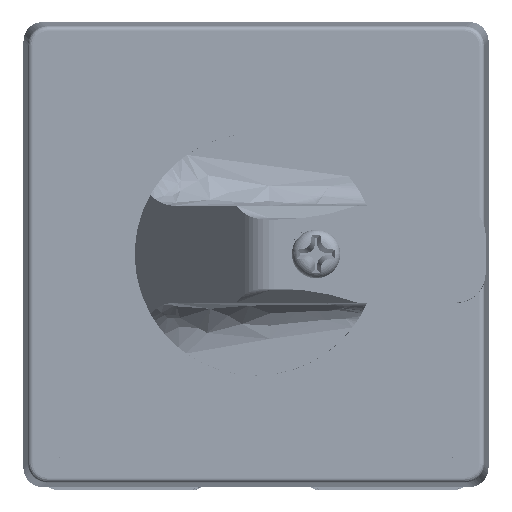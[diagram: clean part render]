
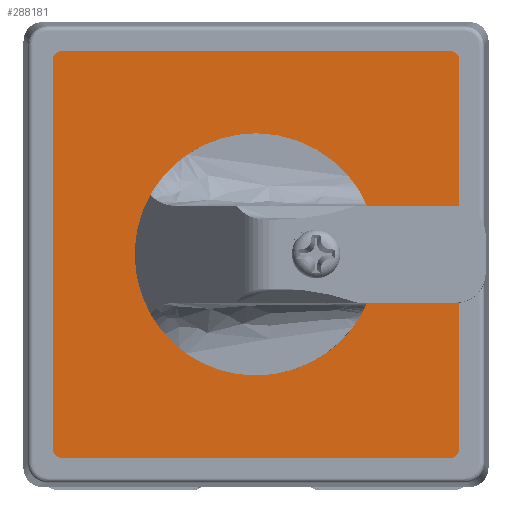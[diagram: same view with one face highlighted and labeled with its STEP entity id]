
A CAD part, top view. The second image highlights one B-rep face of the part: STEP entity #288181.
In plain terms, the highlighted planar face has unit normal (0, 0, 1).
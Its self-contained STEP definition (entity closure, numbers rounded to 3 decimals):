
#13964 = VECTOR ( 'NONE', #387608, 1000. ) ;
#19461 = CARTESIAN_POINT ( 'NONE',  ( 27.361, 14.889, 21.018 ) ) ;
#30120 = VERTEX_POINT ( 'NONE', #77340 ) ;
#37666 = LINE ( 'NONE', #113279, #401773 ) ;
#38415 = DIRECTION ( 'NONE',  ( -1., 0., 0. ) ) ;
#38937 = PLANE ( 'NONE',  #271400 ) ;
#39677 = EDGE_CURVE ( 'NONE', #172224, #101175, #427731, .T. ) ;
#39789 = ORIENTED_EDGE ( 'NONE', *, *, #316991, .T. ) ;
#43035 = EDGE_CURVE ( 'NONE', #315631, #140671, #69457, .T. ) ;
#46417 = DIRECTION ( 'NONE',  ( 0., 0., 1. ) ) ;
#46831 = VERTEX_POINT ( 'NONE', #295164 ) ;
#48933 = CARTESIAN_POINT ( 'NONE',  ( 27.361, 14.889, 21.018 ) ) ;
#52159 = CARTESIAN_POINT ( 'NONE',  ( 26.361, 14.889, 21.018 ) ) ;
#52924 = DIRECTION ( 'NONE',  ( 0., 0., 1. ) ) ;
#62217 = EDGE_CURVE ( 'NONE', #423658, #401848, #116459, .T. ) ;
#69457 = CIRCLE ( 'NONE', #125824, 10.35 ) ;
#77340 = CARTESIAN_POINT ( 'NONE',  ( -14.639, 14.889, 21.018 ) ) ;
#82413 = CARTESIAN_POINT ( 'NONE',  ( 6.361, -5.111, 21.018 ) ) ;
#86670 = DIRECTION ( 'NONE',  ( 0., 0., 1. ) ) ;
#87852 = EDGE_LOOP ( 'NONE', ( #334400, #289129 ) ) ;
#91238 = DIRECTION ( 'NONE',  ( 0., 0., 1. ) ) ;
#94543 = CARTESIAN_POINT ( 'NONE',  ( 6.361, -5.111, 21.018 ) ) ;
#95522 = ORIENTED_EDGE ( 'NONE', *, *, #62217, .T. ) ;
#101175 = VERTEX_POINT ( 'NONE', #279599 ) ;
#101467 = AXIS2_PLACEMENT_3D ( 'NONE', #140305, #102937, #38415 ) ;
#102937 = DIRECTION ( 'NONE',  ( 0., 0., 1. ) ) ;
#109635 = CARTESIAN_POINT ( 'NONE',  ( -13.639, 15.889, 21.018 ) ) ;
#113279 = CARTESIAN_POINT ( 'NONE',  ( -14.639, 14.889, 21.018 ) ) ;
#113869 = CARTESIAN_POINT ( 'NONE',  ( -13.639, -26.111, 21.018 ) ) ;
#116459 = CIRCLE ( 'NONE', #172398, 1. ) ;
#122305 = LINE ( 'NONE', #109635, #347260 ) ;
#124822 = CARTESIAN_POINT ( 'NONE',  ( -13.639, 14.889, 21.018 ) ) ;
#125824 = AXIS2_PLACEMENT_3D ( 'NONE', #94543, #329755, #160584 ) ;
#133747 = AXIS2_PLACEMENT_3D ( 'NONE', #82413, #46417, #321962 ) ;
#134387 = EDGE_CURVE ( 'NONE', #101175, #423658, #376936, .T. ) ;
#136131 = CARTESIAN_POINT ( 'NONE',  ( 16.711, -5.111, 21.018 ) ) ;
#140305 = CARTESIAN_POINT ( 'NONE',  ( -13.639, -25.111, 21.018 ) ) ;
#140671 = VERTEX_POINT ( 'NONE', #274974 ) ;
#141605 = EDGE_LOOP ( 'NONE', ( #95522, #283224, #419074, #305800, #361340, #39789, #148531, #365438 ) ) ;
#148531 = ORIENTED_EDGE ( 'NONE', *, *, #39677, .T. ) ;
#160584 = DIRECTION ( 'NONE',  ( 1., 0., 0. ) ) ;
#172224 = VERTEX_POINT ( 'NONE', #248282 ) ;
#172398 = AXIS2_PLACEMENT_3D ( 'NONE', #52159, #86670, #326197 ) ;
#174015 = DIRECTION ( 'NONE',  ( -1., 0., 0. ) ) ;
#190960 = CARTESIAN_POINT ( 'NONE',  ( 26.361, 15.889, 21.018 ) ) ;
#201402 = LINE ( 'NONE', #113869, #13964 ) ;
#215544 = EDGE_CURVE ( 'NONE', #428571, #30120, #371609, .T. ) ;
#239043 = CIRCLE ( 'NONE', #101467, 1. ) ;
#243521 = FACE_OUTER_BOUND ( 'NONE', #141605, .T. ) ;
#244030 = CIRCLE ( 'NONE', #133747, 10.35 ) ;
#248282 = CARTESIAN_POINT ( 'NONE',  ( 26.361, -26.111, 21.018 ) ) ;
#251852 = CARTESIAN_POINT ( 'NONE',  ( 26.361, -25.111, 21.018 ) ) ;
#259012 = EDGE_CURVE ( 'NONE', #401848, #428571, #122305, .T. ) ;
#271400 = AXIS2_PLACEMENT_3D ( 'NONE', #397880, #91238, #297803 ) ;
#274974 = CARTESIAN_POINT ( 'NONE',  ( -3.989, -5.111, 21.018 ) ) ;
#279599 = CARTESIAN_POINT ( 'NONE',  ( 27.361, -25.111, 21.018 ) ) ;
#283224 = ORIENTED_EDGE ( 'NONE', *, *, #259012, .T. ) ;
#284159 = EDGE_CURVE ( 'NONE', #30120, #385379, #37666, .T. ) ;
#285989 = VECTOR ( 'NONE', #389185, 1000. ) ;
#288104 = EDGE_CURVE ( 'NONE', #140671, #315631, #244030, .T. ) ;
#288181 = ADVANCED_FACE ( 'NONE', ( #243521, #291613 ), #38937, .T. ) ;
#289129 = ORIENTED_EDGE ( 'NONE', *, *, #43035, .F. ) ;
#290980 = DIRECTION ( 'NONE',  ( -1., 0., 0. ) ) ;
#291613 = FACE_BOUND ( 'NONE', #87852, .T. ) ;
#293330 = EDGE_CURVE ( 'NONE', #385379, #46831, #239043, .T. ) ;
#295164 = CARTESIAN_POINT ( 'NONE',  ( -13.639, -26.111, 21.018 ) ) ;
#297803 = DIRECTION ( 'NONE',  ( 1., 0., 0. ) ) ;
#305800 = ORIENTED_EDGE ( 'NONE', *, *, #284159, .T. ) ;
#312207 = CARTESIAN_POINT ( 'NONE',  ( -14.639, -25.111, 21.018 ) ) ;
#315631 = VERTEX_POINT ( 'NONE', #136131 ) ;
#316991 = EDGE_CURVE ( 'NONE', #46831, #172224, #201402, .T. ) ;
#320636 = DIRECTION ( 'NONE',  ( 0., 0., 1. ) ) ;
#321962 = DIRECTION ( 'NONE',  ( 1., 0., 0. ) ) ;
#326197 = DIRECTION ( 'NONE',  ( 1., 0., 0. ) ) ;
#329755 = DIRECTION ( 'NONE',  ( 0., 0., 1. ) ) ;
#334400 = ORIENTED_EDGE ( 'NONE', *, *, #288104, .F. ) ;
#347260 = VECTOR ( 'NONE', #174015, 1000. ) ;
#348324 = DIRECTION ( 'NONE',  ( 0., -1., 0. ) ) ;
#354389 = AXIS2_PLACEMENT_3D ( 'NONE', #124822, #52924, #290980 ) ;
#354979 = DIRECTION ( 'NONE',  ( -1., 0., 0. ) ) ;
#361340 = ORIENTED_EDGE ( 'NONE', *, *, #293330, .T. ) ;
#363042 = AXIS2_PLACEMENT_3D ( 'NONE', #251852, #320636, #354979 ) ;
#365438 = ORIENTED_EDGE ( 'NONE', *, *, #134387, .T. ) ;
#371609 = CIRCLE ( 'NONE', #354389, 1. ) ;
#376936 = LINE ( 'NONE', #19461, #285989 ) ;
#385379 = VERTEX_POINT ( 'NONE', #312207 ) ;
#387608 = DIRECTION ( 'NONE',  ( 1., 0., 0. ) ) ;
#389185 = DIRECTION ( 'NONE',  ( 0., 1., 0. ) ) ;
#397880 = CARTESIAN_POINT ( 'NONE',  ( 26.361, 14.889, 21.018 ) ) ;
#401773 = VECTOR ( 'NONE', #348324, 1000. ) ;
#401848 = VERTEX_POINT ( 'NONE', #190960 ) ;
#419074 = ORIENTED_EDGE ( 'NONE', *, *, #215544, .T. ) ;
#423658 = VERTEX_POINT ( 'NONE', #48933 ) ;
#427731 = CIRCLE ( 'NONE', #363042, 1. ) ;
#428571 = VERTEX_POINT ( 'NONE', #436918 ) ;
#436918 = CARTESIAN_POINT ( 'NONE',  ( -13.639, 15.889, 21.018 ) ) ;
